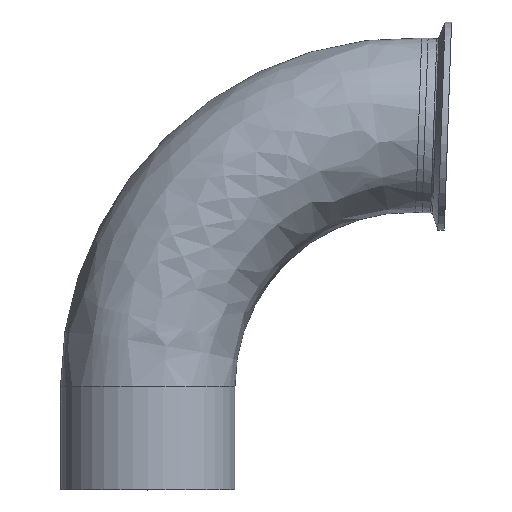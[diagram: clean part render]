
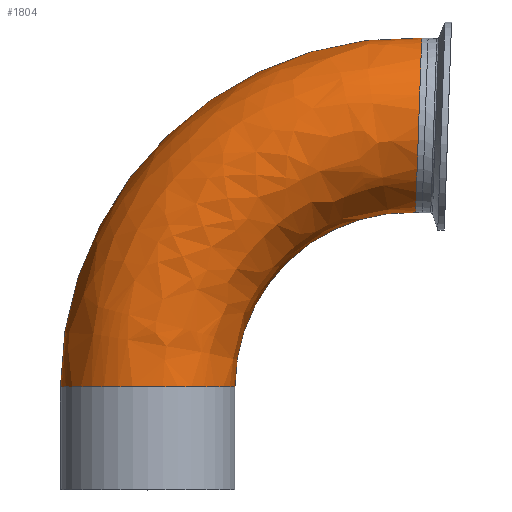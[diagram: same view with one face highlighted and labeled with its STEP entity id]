
A CAD part, top view. The second image highlights one B-rep face of the part: STEP entity #1804.
In plain terms, the highlighted free-form (B-spline) face has degree [3, 3] with [4, 4] control points.
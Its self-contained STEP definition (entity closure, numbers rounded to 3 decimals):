
#2 = EDGE_LOOP ( 'NONE', ( #1350, #462, #707, #1366 ) ) ;
#154 = CIRCLE ( 'NONE', #1193, 76.2 ) ;
#200 = DIRECTION ( 'NONE',  ( 0.035, 0.999, 0. ) ) ;
#233 = VERTEX_POINT ( 'NONE', #1471 ) ;
#239 = DIRECTION ( 'NONE',  ( -0.999, 0.035, 0. ) ) ;
#249 = CARTESIAN_POINT ( 'NONE',  ( 118.289, 159.196, 0. ) ) ;
#251 = CARTESIAN_POINT ( 'NONE',  ( 71.105, 122.72, 0. ) ) ;
#265 = EDGE_CURVE ( 'NONE', #233, #417, #1501, .T. ) ;
#298 = CIRCLE ( 'NONE', #863, 38.1 ) ;
#329 = CARTESIAN_POINT ( 'NONE',  ( 116.959, 121.119, 0. ) ) ;
#338 = EDGE_CURVE ( 'NONE', #233, #525, #298, .T. ) ;
#376 = CARTESIAN_POINT ( 'NONE',  ( -38.1, 136.73, 0. ) ) ;
#382 = CARTESIAN_POINT ( 'NONE',  ( 27.91, 200.475, 76.2 ) ) ;
#392 = CARTESIAN_POINT ( 'NONE',  ( 0., 44.966, 0. ) ) ;
#417 = VERTEX_POINT ( 'NONE', #1183 ) ;
#453 = DIRECTION ( 'NONE',  ( 0., 1., 0. ) ) ;
#462 = ORIENTED_EDGE ( 'NONE', *, *, #1406, .T. ) ;
#471 = CARTESIAN_POINT ( 'NONE',  ( 114.3, 44.966, 0. ) ) ;
#480 = CARTESIAN_POINT ( 'NONE',  ( 38.1, 44.966, 0. ) ) ;
#493 = DIRECTION ( 'NONE',  ( 0., 0., -1. ) ) ;
#505 = DIRECTION ( 'NONE',  ( -1., 0., 0. ) ) ;
#511 = EDGE_CURVE ( 'NONE', #1560, #417, #1763, .T. ) ;
#525 = VERTEX_POINT ( 'NONE', #480 ) ;
#546 = CARTESIAN_POINT ( 'NONE',  ( -38.1, 44.966, 0. ) ) ;
#576 = AXIS2_PLACEMENT_3D ( 'NONE', #249, #239, #200 ) ;
#707 = ORIENTED_EDGE ( 'NONE', *, *, #511, .T. ) ;
#734 = CARTESIAN_POINT ( 'NONE',  ( 38.1, 44.966, 76.2 ) ) ;
#863 = AXIS2_PLACEMENT_3D ( 'NONE', #392, #453, #1819 ) ;
#939 = CARTESIAN_POINT ( 'NONE',  ( 116.959, 121.119, 0. ) ) ;
#958 = CARTESIAN_POINT ( 'NONE',  ( -38.1, 44.966, 76.2 ) ) ;
#1112 = AXIS2_PLACEMENT_3D ( 'NONE', #1738, #1767, #1825 ) ;
#1183 = CARTESIAN_POINT ( 'NONE',  ( 119.619, 197.273, 0. ) ) ;
#1191 = CARTESIAN_POINT ( 'NONE',  ( 38.1, 90.848, 76.2 ) ) ;
#1193 = AXIS2_PLACEMENT_3D ( 'NONE', #471, #493, #505 ) ;
#1310 = CARTESIAN_POINT ( 'NONE',  ( 27.91, 200.475, 0. ) ) ;
#1350 = ORIENTED_EDGE ( 'NONE', *, *, #338, .T. ) ;
#1366 = ORIENTED_EDGE ( 'NONE', *, *, #265, .F. ) ;
#1406 = EDGE_CURVE ( 'NONE', #525, #1560, #154, .T. ) ;
#1435 = CARTESIAN_POINT ( 'NONE',  ( 119.619, 197.273, 0. ) ) ;
#1451 =( BOUNDED_SURFACE ( )  B_SPLINE_SURFACE ( 3, 3, ( 
 ( #546, #376, #1310, #1435 ),
 ( #958, #1481, #382, #1638 ),
 ( #734, #1191, #1604, #1595 ),
 ( #1586, #1689, #251, #329 ) ),
 .UNSPECIFIED., .F., .F., .F. ) 
 B_SPLINE_SURFACE_WITH_KNOTS ( ( 4, 4 ),
 ( 4, 4 ),
 ( 0., 1. ),
 ( 0., 1. ),
 .UNSPECIFIED. ) 
 GEOMETRIC_REPRESENTATION_ITEM ( )  RATIONAL_B_SPLINE_SURFACE ( (
 ( 1., 0.796, 0.796, 1.),
 ( 0.333, 0.265, 0.265, 0.333),
 ( 0.333, 0.265, 0.265, 0.333),
 ( 1., 0.796, 0.796, 1.) ) ) 
 REPRESENTATION_ITEM ( '' )  SURFACE ( )  );
#1471 = CARTESIAN_POINT ( 'NONE',  ( -38.1, 44.966, 0. ) ) ;
#1481 = CARTESIAN_POINT ( 'NONE',  ( -38.1, 136.73, 76.2 ) ) ;
#1501 = CIRCLE ( 'NONE', #1112, 152.4 ) ;
#1560 = VERTEX_POINT ( 'NONE', #939 ) ;
#1586 = CARTESIAN_POINT ( 'NONE',  ( 38.1, 44.966, 0. ) ) ;
#1595 = CARTESIAN_POINT ( 'NONE',  ( 116.959, 121.119, 76.2 ) ) ;
#1604 = CARTESIAN_POINT ( 'NONE',  ( 71.105, 122.72, 76.2 ) ) ;
#1638 = CARTESIAN_POINT ( 'NONE',  ( 119.619, 197.273, 76.2 ) ) ;
#1689 = CARTESIAN_POINT ( 'NONE',  ( 38.1, 90.848, 0. ) ) ;
#1723 = FACE_OUTER_BOUND ( 'NONE', #2, .T. ) ;
#1738 = CARTESIAN_POINT ( 'NONE',  ( 114.3, 44.966, 0. ) ) ;
#1763 = CIRCLE ( 'NONE', #576, 38.1 ) ;
#1767 = DIRECTION ( 'NONE',  ( 0., 0., -1. ) ) ;
#1804 = ADVANCED_FACE ( 'NONE', ( #1723 ), #1451, .T. ) ;
#1819 = DIRECTION ( 'NONE',  ( -1., 0., 0. ) ) ;
#1825 = DIRECTION ( 'NONE',  ( -1., 0., 0. ) ) ;
